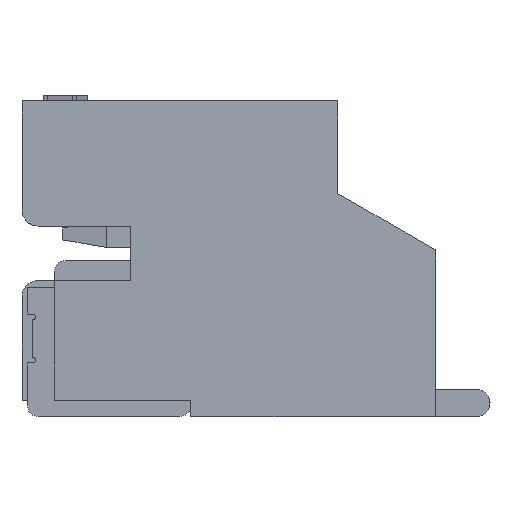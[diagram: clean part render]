
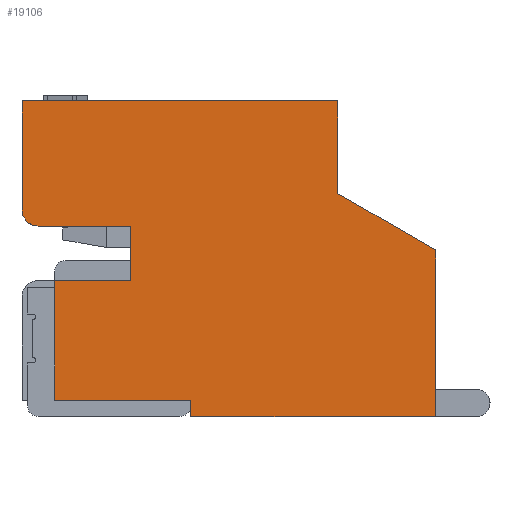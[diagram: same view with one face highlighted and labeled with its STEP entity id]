
A CAD part, left-side view. The second image highlights one B-rep face of the part: STEP entity #19106.
In plain terms, the highlighted planar face has unit normal (-1, 0, 0).
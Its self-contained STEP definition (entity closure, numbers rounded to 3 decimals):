
#4669=CARTESIAN_POINT('',(0.,-0.3,-2.));
#4670=DIRECTION('',(-1.,0.,0.));
#4671=DIRECTION('',(0.,1.,0.));
#4672=AXIS2_PLACEMENT_3D('',#4669,#4670,#4671);
#4674=DIRECTION('',(0.,0.,1.));
#4675=VECTOR('',#4674,2.);
#4676=CARTESIAN_POINT('',(0.,0.,-2.));
#4677=LINE('',#4676,#4675);
#4678=DIRECTION('',(0.,-1.,0.));
#4679=VECTOR('',#4678,5.8);
#4680=CARTESIAN_POINT('',(0.,0.,0.));
#4681=LINE('',#4680,#4679);
#4682=DIRECTION('',(0.,0.,-1.));
#4683=VECTOR('',#4682,1.7);
#4684=CARTESIAN_POINT('',(0.,-5.8,0.));
#4685=LINE('',#4684,#4683);
#4686=DIRECTION('',(0.,-0.866,-0.5));
#4687=VECTOR('',#4686,2.078);
#4688=CARTESIAN_POINT('',(0.,-5.8,-1.7));
#4689=LINE('',#4688,#4687);
#4690=DIRECTION('',(0.,0.,-1.));
#4691=VECTOR('',#4690,3.061);
#4692=CARTESIAN_POINT('',(0.,-7.6,-2.739));
#4693=LINE('',#4692,#4691);
#4694=DIRECTION('',(0.,1.,0.));
#4695=VECTOR('',#4694,4.5);
#4696=CARTESIAN_POINT('',(0.,-7.6,-5.8));
#4697=LINE('',#4696,#4695);
#4698=DIRECTION('',(0.,0.,1.));
#4699=VECTOR('',#4698,0.3);
#4700=CARTESIAN_POINT('',(0.,-3.1,-5.8));
#4701=LINE('',#4700,#4699);
#4702=DIRECTION('',(0.,1.,0.));
#4703=VECTOR('',#4702,2.5);
#4704=CARTESIAN_POINT('',(0.,-3.1,-5.5));
#4705=LINE('',#4704,#4703);
#4706=DIRECTION('',(0.,0.,-1.));
#4707=VECTOR('',#4706,2.2);
#4708=CARTESIAN_POINT('',(0.,-0.6,-3.3));
#4709=LINE('',#4708,#4707);
#4710=DIRECTION('',(0.,-1.,0.));
#4711=VECTOR('',#4710,1.4);
#4712=CARTESIAN_POINT('',(0.,-0.6,-3.3));
#4713=LINE('',#4712,#4711);
#4714=DIRECTION('',(0.,0.,1.));
#4715=VECTOR('',#4714,1.);
#4716=CARTESIAN_POINT('',(0.,-2.,-3.3));
#4717=LINE('',#4716,#4715);
#4718=DIRECTION('',(0.,1.,0.));
#4719=VECTOR('',#4718,1.7);
#4720=CARTESIAN_POINT('',(0.,-2.,-2.3));
#4721=LINE('',#4720,#4719);
#10929=CARTESIAN_POINT('',(0.,0.,0.));
#10930=CARTESIAN_POINT('',(0.,-5.8,0.));
#10931=VERTEX_POINT('',#10929);
#10932=VERTEX_POINT('',#10930);
#10933=CARTESIAN_POINT('',(0.,-5.8,-1.7));
#10934=VERTEX_POINT('',#10933);
#10935=CARTESIAN_POINT('',(0.,-7.6,-2.739));
#10936=VERTEX_POINT('',#10935);
#10937=CARTESIAN_POINT('',(0.,-7.6,-5.8));
#10938=VERTEX_POINT('',#10937);
#10939=CARTESIAN_POINT('',(0.,-3.1,-5.8));
#10940=VERTEX_POINT('',#10939);
#10941=CARTESIAN_POINT('',(0.,-3.1,-5.5));
#10942=VERTEX_POINT('',#10941);
#10943=CARTESIAN_POINT('',(0.,-2.,-3.3));
#10944=CARTESIAN_POINT('',(0.,-2.,-2.3));
#10945=VERTEX_POINT('',#10943);
#10946=VERTEX_POINT('',#10944);
#11099=CARTESIAN_POINT('',(0.,-0.6,-3.3));
#11100=CARTESIAN_POINT('',(0.,-0.6,-5.5));
#11101=VERTEX_POINT('',#11099);
#11102=VERTEX_POINT('',#11100);
#12251=CARTESIAN_POINT('',(0.,0.,-2.));
#12252=CARTESIAN_POINT('',(0.,-0.3,-2.3));
#12253=VERTEX_POINT('',#12251);
#12254=VERTEX_POINT('',#12252);
#19081=CARTESIAN_POINT('',(0.,0.,0.));
#19082=DIRECTION('',(1.,0.,0.));
#19083=DIRECTION('',(0.,0.,-1.));
#19084=AXIS2_PLACEMENT_3D('',#19081,#19082,#19083);
#19085=PLANE('',#19084);
#19087=ORIENTED_EDGE('',*,*,#19086,.F.);
#19088=ORIENTED_EDGE('',*,*,#18981,.T.);
#19089=ORIENTED_EDGE('',*,*,#15246,.T.);
#19090=ORIENTED_EDGE('',*,*,#15669,.T.);
#19092=ORIENTED_EDGE('',*,*,#19091,.T.);
#19094=ORIENTED_EDGE('',*,*,#19093,.T.);
#19096=ORIENTED_EDGE('',*,*,#19095,.T.);
#19097=ORIENTED_EDGE('',*,*,#16649,.T.);
#19098=ORIENTED_EDGE('',*,*,#16284,.T.);
#19100=ORIENTED_EDGE('',*,*,#19099,.F.);
#19101=ORIENTED_EDGE('',*,*,#16483,.T.);
#19102=ORIENTED_EDGE('',*,*,#17188,.T.);
#19103=ORIENTED_EDGE('',*,*,#16919,.T.);
#19104=EDGE_LOOP('',(#19087,#19088,#19089,#19090,#19092,#19094,#19096,#19097,
#19098,#19100,#19101,#19102,#19103));
#19105=FACE_OUTER_BOUND('',#19104,.F.);
#19106=ADVANCED_FACE('',(#19105),#19085,.F.);
#4673=CIRCLE('',#4672,0.3);
#15246=EDGE_CURVE('',#10931,#10932,#4681,.T.);
#15669=EDGE_CURVE('',#10932,#10934,#4685,.T.);
#16284=EDGE_CURVE('',#10942,#11102,#4705,.T.);
#16483=EDGE_CURVE('',#11101,#10945,#4713,.T.);
#16649=EDGE_CURVE('',#10940,#10942,#4701,.T.);
#16919=EDGE_CURVE('',#10946,#12254,#4721,.T.);
#17188=EDGE_CURVE('',#10945,#10946,#4717,.T.);
#18981=EDGE_CURVE('',#12253,#10931,#4677,.T.);
#19086=EDGE_CURVE('',#12253,#12254,#4673,.T.);
#19091=EDGE_CURVE('',#10934,#10936,#4689,.T.);
#19093=EDGE_CURVE('',#10936,#10938,#4693,.T.);
#19095=EDGE_CURVE('',#10938,#10940,#4697,.T.);
#19099=EDGE_CURVE('',#11101,#11102,#4709,.T.);
